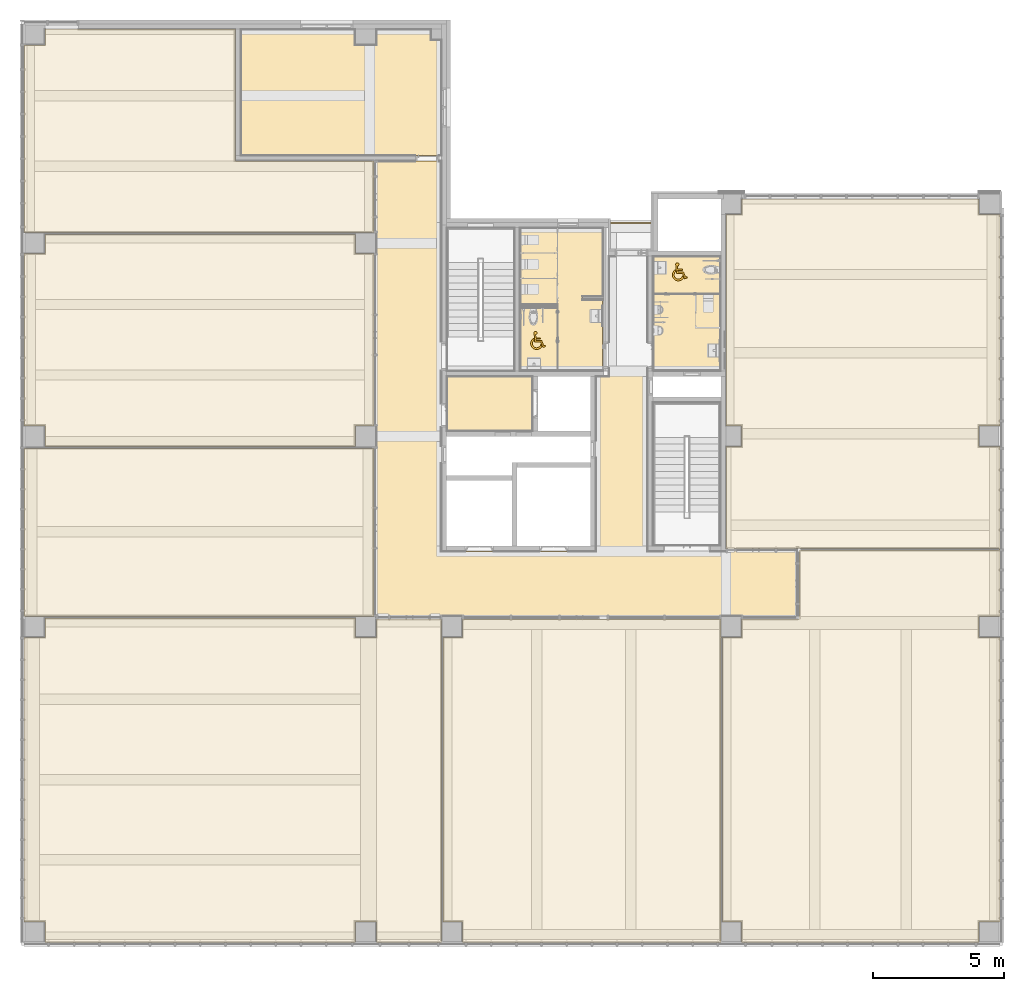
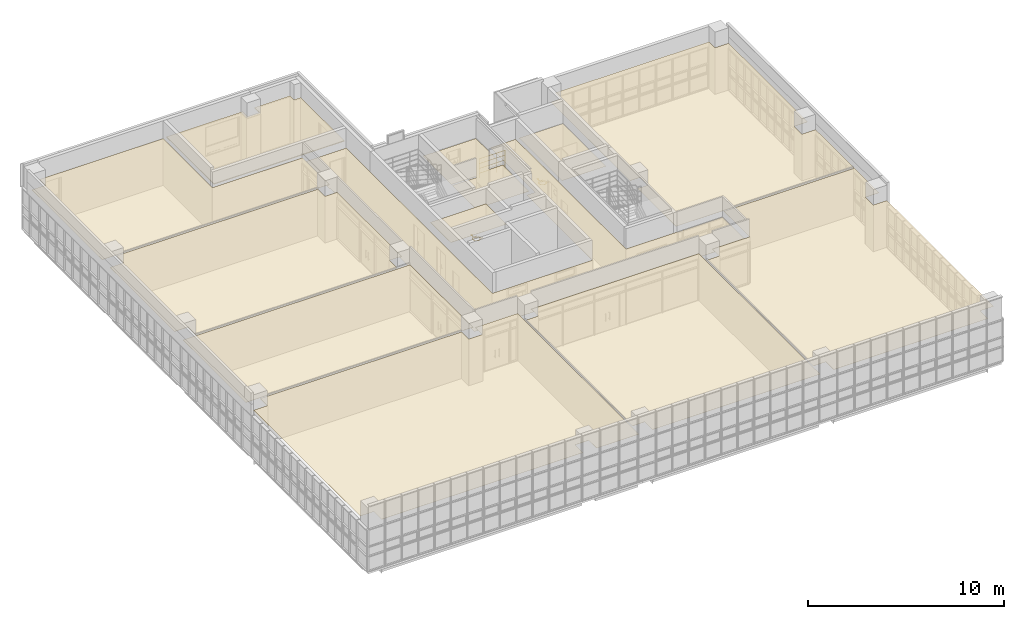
# One storey, part 68 of 76: 6 coverings, 2 doors, 1 railing.
"""IFC2X3 building model written with IfcOpenShell, lengths in millimetres."""

from ifc_helpers import new_model, entity, si_unit, converted_unit, derived_unit, direction, frame, frame_2d, origin, origin_2d_with_axis, place, context, subcontext, project, spatial, polyline, circle_curve, parameter, trimmed, segment, composite_curve, rectangle, circle, outline, extrude, source, transform, mapped, material, material_list, layer, layer_set, layer_usage, type_object, type_shapes, element, save


model = new_model("IFC2X3")

# Units and contexts
model_context = context("Model", 3, precision=0.01, world=origin(), true_north=direction((6.123031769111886e-17, 1.0)))
body_context = subcontext(model_context, "Body", "Model", "MODEL_VIEW")
ifc_project = project(units=[si_unit("LENGTHUNIT", "METRE", prefix="MILLI"), si_unit("AREAUNIT", "SQUARE_METRE"), si_unit("VOLUMEUNIT", "CUBIC_METRE"), converted_unit("PLANEANGLEUNIT", "DEGREE", entity("IfcRatioMeasure", 0.017453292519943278), si_unit("PLANEANGLEUNIT", "RADIAN"), dimensions=[0, 0, 0, 0, 0, 0, 0]), si_unit("MASSUNIT", "GRAM", prefix="KILO"), derived_unit("MASSDENSITYUNIT", [(si_unit("MASSUNIT", "GRAM", prefix="KILO"), 1), (si_unit("LENGTHUNIT", "METRE"), -3)]), derived_unit("MOMENTOFINERTIAUNIT", [(si_unit("LENGTHUNIT", "METRE"), 4)]), si_unit("TIMEUNIT", "SECOND"), si_unit("FREQUENCYUNIT", "HERTZ"), si_unit("THERMODYNAMICTEMPERATUREUNIT", "DEGREE_CELSIUS"), derived_unit("THERMALTRANSMITTANCEUNIT", [(si_unit("MASSUNIT", "GRAM", prefix="KILO"), 1), (si_unit("THERMODYNAMICTEMPERATUREUNIT", "KELVIN"), -1), (si_unit("TIMEUNIT", "SECOND"), -3)]), derived_unit("VOLUMETRICFLOWRATEUNIT", [(si_unit("LENGTHUNIT", "METRE"), 3), (si_unit("TIMEUNIT", "SECOND"), -1)]), derived_unit("MASSFLOWRATEUNIT", [(si_unit("MASSUNIT", "GRAM", prefix="KILO"), 1), (si_unit("TIMEUNIT", "SECOND"), -1)]), derived_unit("ROTATIONALFREQUENCYUNIT", [(si_unit("TIMEUNIT", "SECOND"), -1)]), si_unit("ELECTRICCURRENTUNIT", "AMPERE"), si_unit("ELECTRICVOLTAGEUNIT", "VOLT"), si_unit("POWERUNIT", "WATT"), si_unit("FORCEUNIT", "NEWTON", prefix="KILO"), si_unit("ILLUMINANCEUNIT", "LUX"), si_unit("LUMINOUSFLUXUNIT", "LUMEN"), si_unit("LUMINOUSINTENSITYUNIT", "CANDELA"), derived_unit("USERDEFINED", [(si_unit("MASSUNIT", "GRAM", prefix="KILO"), -1), (si_unit("LENGTHUNIT", "METRE"), -2), (si_unit("TIMEUNIT", "SECOND"), 3), (si_unit("LUMINOUSFLUXUNIT", "LUMEN"), 1)]), derived_unit("SOUNDPOWERUNIT", [(si_unit("MASSUNIT", "GRAM", prefix="KILO"), 1), (si_unit("LENGTHUNIT", "METRE"), 2), (si_unit("TIMEUNIT", "SECOND"), -3)]), derived_unit("SOUNDPRESSUREUNIT", [(si_unit("MASSUNIT", "GRAM", prefix="KILO"), 1), (si_unit("LENGTHUNIT", "METRE"), -1), (si_unit("TIMEUNIT", "SECOND"), -2)]), derived_unit("LINEARVELOCITYUNIT", [(si_unit("LENGTHUNIT", "METRE"), 1), (si_unit("TIMEUNIT", "SECOND"), -1)]), si_unit("PRESSUREUNIT", "PASCAL"), derived_unit("USERDEFINED", [(si_unit("LENGTHUNIT", "METRE"), -2), (si_unit("MASSUNIT", "GRAM", prefix="KILO"), 1), (si_unit("TIMEUNIT", "SECOND"), -2)]), derived_unit("LINEARFORCEUNIT", [(si_unit("MASSUNIT", "GRAM", prefix="KILO"), 1), (si_unit("LENGTHUNIT", "METRE"), 1), (si_unit("TIMEUNIT", "SECOND"), -2), (si_unit("LENGTHUNIT", "METRE"), -1)]), derived_unit("PLANARFORCEUNIT", [(si_unit("MASSUNIT", "GRAM", prefix="KILO"), 1), (si_unit("LENGTHUNIT", "METRE"), 1), (si_unit("TIMEUNIT", "SECOND"), -2), (si_unit("LENGTHUNIT", "METRE"), -2)])], contexts=[model_context])

# Site, building, storey
site_placement = place(None, frame((-14167.972527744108, -657.2125860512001, 0.0)))
site = spatial("IfcSite", under=ifc_project, at=site_placement, Name="Default", CompositionType="ELEMENT")
building_placement = place(site_placement, origin())
building = spatial("IfcBuilding", under=site, at=building_placement, Name="Sample Building", CompositionType="ELEMENT")
storey_placement = place(building_placement, frame((0.0, 0.0, 9300.0)))
storey = spatial("IfcBuildingStorey", under=building, at=storey_placement, Name="지상 3층", CompositionType="ELEMENT", Elevation=9300.000000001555)

# Doors
ifc_material_1 = material(Name="KBIMS-노면용 페인트_진하늘색")
ifc_material_list_1 = material_list([ifc_material_1, ifc_material_1])
door_style = type_object("IfcDoorStyle", Name="SE251-장애인전용 표시:SE251-장애인전용 표시", ConstructionType="NOTDEFINED", OperationType="NOTDEFINED", ParameterTakesPrecedence=False, Sizeable=False, material=ifc_material_list_1)
shared_shape = source(origin(), body_context, "Body", "SweptSolid", [
    extrude(outline(composite_curve([segment(trimmed(circle_curve(frame_2d((-36.68855283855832, -47.74251805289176), x_axis=(1.0, 0.0)), 229.68578343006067), [parameter(118.63343780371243)], [parameter(330.18087778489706)], True, "PARAMETER"), True, "CONTINUOUS"), segment(polyline([(162.58672770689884, -161.9568852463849), (125.13875807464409, -69.8626552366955)]), True, "CONTINUOUS"), segment(trimmed(circle_curve(frame_2d((-36.68855283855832, -47.74251805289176), x_axis=(1.0, 0.0)), 163.33211266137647), [parameter(129.67752554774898)], [parameter(352.21649007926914)], True, "PARAMETER"), False, "CONTINUOUS"), segment(polyline([(-140.97054841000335, 77.96605136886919), (-146.7549373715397, 153.85348911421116)]), True, "CONTINUOUS")], self_intersect=False)), frame((71.31807136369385, -37.57408412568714, 0.0)), (0.0, 0.0, 1.0), 1.5875),
    extrude(outline(composite_curve([segment(polyline([(-282.31222354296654, -186.97456283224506), (25.012127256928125, -186.974562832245)]), True, "CONTINUOUS"), segment(polyline([(25.012127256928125, -186.974562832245), (42.305091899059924, 39.89793596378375)]), True, "CONTINUOUS"), segment(polyline([(42.30509189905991, 39.89793596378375), (263.5159692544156, 110.7895168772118)]), True, "CONTINUOUS"), segment(polyline([(263.5159692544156, 110.7895168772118), (230.53394569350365, 215.81642815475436)]), True, "CONTINUOUS"), segment(polyline([(230.53394569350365, 215.81642815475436), (181.07321552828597, 202.95741624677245)]), True, "CONTINUOUS"), segment(polyline([(181.07321552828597, 202.95741624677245), (198.08692429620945, 148.77950087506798)]), True, "CONTINUOUS"), segment(polyline([(198.08692429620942, 148.77950087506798), (-10.806586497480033, 81.83527372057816)]), True, "CONTINUOUS"), segment(polyline([(-10.806586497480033, 81.83527372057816), (-27.016565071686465, -130.829149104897)]), True, "CONTINUOUS"), segment(polyline([(-27.01656507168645, -130.829149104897), (-74.51295100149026, -130.82914910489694)]), True, "CONTINUOUS"), segment(polyline([(-74.51295100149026, -130.82914910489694), (-60.984513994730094, 46.65518467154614)]), True, "CONTINUOUS"), segment(polyline([(-60.984513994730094, 46.65518467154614), (-111.87816757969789, 50.53446557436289)]), True, "CONTINUOUS"), segment(polyline([(-111.87816757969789, 50.53446557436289), (-125.70229607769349, -130.82914910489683)]), True, "CONTINUOUS"), segment(polyline([(-125.70229607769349, -130.82914910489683), (-247.3139701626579, -130.8291491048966)]), True, "CONTINUOUS"), segment(trimmed(circle_curve(frame_2d((-311.1107235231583, -130.04222235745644), x_axis=(0.07600280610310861, 0.9971076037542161)), 63.80160650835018), [parameter(273.6521413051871)], [parameter(211.19083029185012)], True, "PARAMETER"), True, "CONTINUOUS")], self_intersect=False)), frame((145.3871253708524, 15.097937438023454, 0.0), z_axis=(0.0, 0.0, 1.0), x_axis=(0.07600280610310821, -0.9971076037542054, 0.0)), (0.0, 0.0, 1.0), 1.5875),
])
type_shapes(door_style, [shared_shape])
for number, where, name in (
    (1, (33677.963692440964, 23597.21230348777, 0.0), "SE251-장애인전용 표시:SE251-장애인전용 표시"),
    (2, (39107.972527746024, 26227.212300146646, 0.0), "SE251-장애인전용 표시:SE251-장애인전용 표시"),
):
    element("IfcDoor", number, at=place(storey_placement, frame(where)), inside=storey, type_object=door_style, material=ifc_material_1, Name=name, ObjectType="SE251-장애인전용 표시:SE251-장애인전용 표시", OverallHeight=1.5875, OverallWidth=572.3706125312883, context=body_context, shape_type="MappedRepresentation", body=[
        mapped(shared_shape, transform((0.0, 0.0, 0.0), scale=1.0)),
    ])

# Covering
ifc_material_2 = material(Name="CE782-경량철골천장틀(M-Bar) 천장")
ifc_layer_1 = layer(ifc_material_2, 1.0)
ifc_material_3 = material(Name="CE742-무석면텍스 천장 (시멘트계천장재) (6mm)")
ifc_layer_2 = layer(ifc_material_3, 6.0)
ifc_layer_set_1 = layer_set([ifc_layer_1, ifc_layer_2], Name="복합 천장:A1-44-11A-경량철골천장틀(M-Bar), 무석면텍스 (7mm)")
ifc_layer_usage_1 = layer_usage(ifc_layer_set_1, "AXIS3", "POSITIVE", 0.0)
covering_type_1 = type_object("IfcCoveringType", Name="복합 천장:A1-44-11A-경량철골천장틀(M-Bar), 무석면텍스 (7mm)", PredefinedType="CEILING")
covering_1_placement = place(storey_placement, origin())
element("IfcCovering", 3, at=covering_1_placement, inside=storey, type_object=covering_type_1, material=ifc_layer_usage_1, Name="복합 천장:A1-44-11A-경량철골천장틀(M-Bar), 무석면텍스 (7mm)", ObjectType="복합 천장:A1-44-11A-경량철골천장틀(M-Bar), 무석면텍스 (7mm)", PredefinedType="CEILING", context=body_context, shape_type="SweptSolid", body=[
    extrude(outline(polyline([(-12295.998297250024, -13175.097618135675), (-2395.99826981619, -13175.097618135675), (-2396.01561917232, -1493.097392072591), (-2333.5156191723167, -1493.0973920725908), (-2333.515619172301, -12375.097813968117), (-1595.998269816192, -12375.097813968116), (-1595.9982698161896, -13175.097618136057), (7504.010426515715, -13175.09761813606), (7504.010426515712, -12375.097392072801), (8303.99306798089, -12375.0973920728), (8303.993067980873, -1475.0969701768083), (7504.010426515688, -1475.0969701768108), (7504.010426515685, -675.0969701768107), (8304.001809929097, -675.0969701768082), (8304.00180992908, 5824.902607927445), (7504.010453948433, 5824.902607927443), (7504.010453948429, 6624.902607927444), (8304.001730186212, 6624.902607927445), (8304.001730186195, 14724.902695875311), (7504.010453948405, 14724.90269587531), (7504.010453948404, 15324.902595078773), (-1595.99826981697, 15324.902595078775), (-1595.998269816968, 14724.902607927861), (-2196.0069628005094, 14724.90260792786), (-2196.006962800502, 6624.902607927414), (-1595.9982895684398, 6624.902607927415), (-1595.9982895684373, 5824.902607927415), (-2196.006962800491, 5824.902607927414), (-2196.0069628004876, 1924.867977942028), (599.0017301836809, 1924.867977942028), (599.0017301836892, -765.1148216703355), (-1595.9982698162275, -765.1148216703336), (-1595.9982698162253, -1475.097392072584), (-2395.9982698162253, -1475.0973920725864), (-2395.9982698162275, -765.0971140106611), (-12295.998297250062, -765.0971140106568), (-12295.99829725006, -1475.0973920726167), (-13033.51564660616, -1475.0973920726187), (-13033.515646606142, -12375.097813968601), (-12295.998297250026, -12375.097813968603), (-12295.998297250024, -13175.097618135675)]), holes=[polyline([(603.9930679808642, 1862.3679243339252), (603.993067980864, 1924.8679243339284), (8253.993067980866, 1924.8679243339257), (8253.993067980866, 1862.3679243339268), (603.9930679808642, 1862.3679243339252)])]), frame((43163.97076094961, 13732.30970006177, 2980.0)), (0.0, 0.0, 1.0), 7.000000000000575),
    extrude(outline(polyline([(-3310.4165688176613, -6734.997023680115), (3289.5834311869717, -6734.997023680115), (3289.5834311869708, -5934.997140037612), (4089.5831221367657, -5934.997140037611), (4089.5831221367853, 5965.0028965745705), (3289.583431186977, 5965.00289657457), (3289.583431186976, 6674.985510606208), (-3310.416568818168, 6674.9855106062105), (-3310.416568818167, 5965.002896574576), (-4047.9168468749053, 5965.002896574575), (-4047.916846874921, -5934.997140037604), (-3310.416568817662, -5934.9971400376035), (-3310.4165688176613, -6734.997023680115)])), frame((20802.96959455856, 23646.795739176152, 2980.0), z_axis=(0.0, 0.0, 1.0), x_axis=(0.0, -1.0, 0.0)), (0.0, 0.0, 1.0), 7.000000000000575),
    extrude(outline(polyline([(-3527.7777847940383, 5057.773960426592), (-3527.777784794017, -2242.226076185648), (1322.222235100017, -2242.2260761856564), (1522.2222351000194, -2242.2260761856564), (1522.222235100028, -7552.20869021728), (4272.222202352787, -7552.20869021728), (4272.222202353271, 5857.773844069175), (-2927.777770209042, 5857.773844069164), (-2927.777770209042, 5057.773960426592), (-3527.7777847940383, 5057.773960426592)])), frame((19925.74641494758, 32029.434510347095, 2980.0), z_axis=(0.0, 0.0, -1.0), x_axis=(0.0, -1.0, 0.0)), (0.0, 0.0, -1.0), 7.000000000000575),
    extrude(rectangle(XDim=6437.500309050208, YDim=13409.982534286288, at=frame_2d((-9.777068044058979e-12, 9.094947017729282e-13), x_axis=(1.0, 0.0))), frame((20772.963838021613, 16275.962462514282, 2980.0), z_axis=(0.0, 0.0, 1.0), x_axis=(0.0, -1.0, 0.0)), (0.0, 0.0, 1.0), 7.000000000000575),
    extrude(outline(polyline([(-5469.066934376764, -8749.999917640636), (5430.9334875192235, -8749.999917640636), (5430.933487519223, -7950.000033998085), (6230.933178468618, -7950.000033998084), (6230.933178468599, 3950.0), (5430.933487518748, 3950.0), (5430.933487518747, 4750.0), (6230.933178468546, 4750.0), (6230.933178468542, 7249.999975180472), (-6179.06721243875, 7249.999975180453), (-6179.067212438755, 4750.0), (-5469.066934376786, 4750.0), (-5469.066934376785, 3950.0), (-6206.532250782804, 3950.0), (-6206.53225078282, -7950.000033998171), (-5469.066934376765, -7950.00003399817), (-5469.066934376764, -8749.999917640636)])), frame((22817.972488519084, 6788.145373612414, 2980.0), z_axis=(0.0, 0.0, 1.0), x_axis=(0.0, -1.0, 0.0)), (0.0, 0.0, 1.0), 7.000000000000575),
])

# Space
space_1_placement = place(storey_placement, origin())
space_1 = spatial("IfcSpace", under=storey, at=space_1_placement, Name="204", CompositionType="ELEMENT", InteriorOrExteriorSpace="INTERNAL")

# Covering
ifc_layer_usage_2 = layer_usage(ifc_layer_set_1, "AXIS3", "POSITIVE", 0.0)
covering_type_2 = type_object("IfcCoveringType", Name="복합 천장:A1-44-11A-경량철골천장틀(M-Bar), 무석면텍스 (7mm)", PredefinedType="CEILING")
covering_2_placement = place(space_1_placement, origin())
element("IfcCovering", 4, at=covering_2_placement, inside=space_1, type_object=covering_type_2, material=ifc_layer_usage_2, Name="복합 천장:A1-44-11A-경량철골천장틀(M-Bar), 무석면텍스 (7mm)", ObjectType="복합 천장:A1-44-11A-경량철골천장틀(M-Bar), 무석면텍스 (7mm)", PredefinedType="CEILING", context=body_context, shape_type="SweptSolid", body=[
    extrude(outline(polyline([(3476.195888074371, -10401.897758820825), (6026.18715847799, -10401.897758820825), (6026.187158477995, -7651.897791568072), (5976.187158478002, -7651.897791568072), (5976.187158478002, -6851.897791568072), (5976.18715847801, -251.89779156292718), (5976.18715847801, 548.1368920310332), (5976.187158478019, 7048.102208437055), (3476.187185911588, 7048.102208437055), (2676.187185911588, 7048.102208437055), (-7223.795455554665, 7048.102208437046), (-8023.812841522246, 7048.102208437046), (-10123.812841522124, 7048.1022084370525), (-10123.812841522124, 4543.10227489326), (-4423.80414853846, 4543.10227489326), (-4423.80414853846, -6751.8977787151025), (-2923.804148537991, -6751.8977787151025), (-2923.804148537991, -2151.8977949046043), (-2423.812841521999, -2151.8977949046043), (-2423.812841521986, 4548.011569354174), (3476.195888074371, 4548.011569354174), (3476.195888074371, -10401.897758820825)])), frame((33544.15964961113, 20105.31451642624, 2680.0), z_axis=(0.0, 0.0, 1.0), x_axis=(-1.0, 0.0, 0.0)), (0.0, 0.0, 1.0), 7.000000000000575),
])

# Space
space_2_placement = place(storey_placement, origin())
space_2 = spatial("IfcSpace", under=storey, at=space_2_placement, Name="201", CompositionType="ELEMENT", InteriorOrExteriorSpace="INTERNAL")

# Covering
ifc_layer_usage_3 = layer_usage(ifc_layer_set_1, "AXIS3", "POSITIVE", 0.0)
covering_type_3 = type_object("IfcCoveringType", Name="복합 천장:A1-44-11A-경량철골천장틀(M-Bar), 무석면텍스 (7mm)", PredefinedType="CEILING")
covering_3_placement = place(space_2_placement, origin())
element("IfcCovering", 5, at=covering_3_placement, inside=space_2, type_object=covering_type_3, material=ifc_layer_usage_3, Name="복합 천장:A1-44-11A-경량철골천장틀(M-Bar), 무석면텍스 (7mm)", ObjectType="복합 천장:A1-44-11A-경량철골천장틀(M-Bar), 무석면텍스 (7mm)", PredefinedType="CEILING", context=body_context, shape_type="SweptSolid", body=[
    extrude(rectangle(XDim=2100.000003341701, YDim=3300.0087295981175, at=frame_2d((0.0, 2.1600499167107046e-12), x_axis=(1.0, 0.0))), frame((31917.96812633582, 21207.212309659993, 2980.0), z_axis=(0.0, 0.0, 1.0), x_axis=(0.0, -1.0, 0.0)), (0.0, 0.0, 1.0), 7.000000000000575),
])

# Space
space_3_placement = place(storey_placement, origin())
space_3 = spatial("IfcSpace", under=storey, at=space_3_placement, Name="8", CompositionType="ELEMENT", InteriorOrExteriorSpace="INTERNAL")

# Coverings
ifc_material_4 = material(Name="CE554-콘크리트면정리 천장")
ifc_layer_3 = layer(ifc_material_4, 1.0)
ifc_material_5 = material(Name="CE751-유리면 흡음판 천장 (48k, 그라스크로스, 50mm)")
ifc_layer_4 = layer(ifc_material_5, 49.0)
ifc_layer_set_2 = layer_set([ifc_layer_3, ifc_layer_4], Name="복합 천장:A1-46-01B-콘크리트면정리, 유리면 흡음판(그라스크로스) (50mm)")
ifc_layer_usage_4 = layer_usage(ifc_layer_set_2, "AXIS3", "POSITIVE", 0.0)
covering_type_4 = type_object("IfcCoveringType", Name="복합 천장:A1-46-01B-콘크리트면정리, 유리면 흡음판(그라스크로스) (50mm)", PredefinedType="CEILING")
covering_4_placement = place(space_3_placement, origin())
element("IfcCovering", 6, at=covering_4_placement, inside=space_3, type_object=covering_type_4, material=ifc_layer_usage_4, Name="복합 천장:A1-46-01B-콘크리트면정리, 유리면 흡음판(그라스크로스) (50mm)", ObjectType="복합 천장:A1-46-01B-콘크리트면정리, 유리면 흡음판(그라스크로스) (50mm)", PredefinedType="CEILING", context=body_context, shape_type="SweptSolid", body=[
    extrude(outline(polyline([(439.99650816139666, -1150.0000043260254), (4939.996508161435, -1150.0000043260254), (4939.996508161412, 3700.0000155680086), (-2759.994762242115, 3700.0000155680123), (-2759.994762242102, -750.00001717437), (-2359.994762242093, -750.0000171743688), (-2359.9947622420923, -1150.0000043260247), (-260.0034918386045, -1150.0000043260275), (-260.0034918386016, -649.9999897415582), (439.99650816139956, -649.9999897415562), (439.99650816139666, -1150.0000043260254)])), frame((27307.96899929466, 34407.21229081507, 2980.0), z_axis=(0.0, 0.0, 1.0), x_axis=(-1.0, 0.0, 0.0)), (0.0, 0.0, 1.0), 49.99999999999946),
])
ifc_layer_5 = layer(ifc_material_2, 1.0)
ifc_material_6 = material(Name="CE761-열경화성수지 천장 (300x300x1.2mm)")
ifc_layer_6 = layer(ifc_material_6, 1.0)
ifc_layer_set_3 = layer_set([ifc_layer_5, ifc_layer_6], Name="복합 천장:A1-45-06A-경량철골천장틀(M-Bar), 열경화성수지(300x300x1.2mm) (2mm) TYPE-D")
ifc_layer_usage_5 = layer_usage(ifc_layer_set_3, "AXIS3", "POSITIVE", 0.0)
covering_type_5 = type_object("IfcCoveringType", Name="복합 천장:A1-45-06A-경량철골천장틀(M-Bar), 열경화성수지(300x300x1.2mm) (2mm) TYPE-D", PredefinedType="CEILING")
covering_5_placement = place(storey_placement, origin())
element("IfcCovering", 7, at=covering_5_placement, inside=storey, type_object=covering_type_5, material=ifc_layer_usage_5, Name="복합 천장:A1-45-06A-경량철골천장틀(M-Bar), 열경화성수지(300x300x1.2mm) (2mm) TYPE-D", ObjectType="복합 천장:A1-45-06A-경량철골천장틀(M-Bar), 열경화성수지(300x300x1.2mm) (2mm) TYPE-D", PredefinedType="CEILING", context=body_context, shape_type="SweptSolid", body=[
    extrude(outline(polyline([(-1462.494197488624, -2793.4894692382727), (1677.4883734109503, -2793.4894692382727), (1677.4883734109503, 146.97894098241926), (262.5058456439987, 146.97894098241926), (262.5058456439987, 236.97894098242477), (1677.4883734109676, 236.97894098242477), (1677.4883734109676, 2646.510527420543), (-1462.494197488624, 2646.510527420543), (-1462.494197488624, -73.48947090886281), (-692.4941974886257, -73.48947090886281), (-692.4941974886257, -163.48946923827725), (-1462.494197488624, -163.48946923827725), (-1462.494197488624, -2793.4894692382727)])), frame((34775.46960066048, 25133.72283875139, 2690.0), z_axis=(0.0, 0.0, 1.0), x_axis=(-1.0, 0.0, 0.0)), (0.0, 0.0, 1.0), 1.9999999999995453),
])
ifc_layer_usage_6 = layer_usage(ifc_layer_set_3, "AXIS3", "POSITIVE", 0.0)
covering_type_6 = type_object("IfcCoveringType", Name="복합 천장:A1-45-06A-경량철골천장틀(M-Bar), 열경화성수지(300x300x1.2mm) (2mm) TYPE-D", PredefinedType="CEILING")
covering_6_placement = place(storey_placement, origin())
element("IfcCovering", 8, at=covering_6_placement, inside=storey, type_object=covering_type_6, material=ifc_layer_usage_6, Name="복합 천장:A1-45-06A-경량철골천장틀(M-Bar), 열경화성수지(300x300x1.2mm) (2mm) TYPE-D", ObjectType="복합 천장:A1-45-06A-경량철골천장틀(M-Bar), 열경화성수지(300x300x1.2mm) (2mm) TYPE-D", PredefinedType="CEILING", context=body_context, shape_type="SweptSolid", body=[
    extrude(rectangle(XDim=2600.0000000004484, YDim=4399.999996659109, at=origin_2d_with_axis()), frame((39467.963798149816, 24657.212296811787, 2690.0), z_axis=(0.0, 0.0, 1.0), x_axis=(-1.0, 0.0, 0.0)), (0.0, 0.0, 1.0), 1.9999999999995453),
])

# Railing
ifc_material_7 = material(Name="KBIMS-난간")
ifc_material_8 = material(Name="KBIMS-금속재")
ifc_material_list_2 = material_list([ifc_material_7, ifc_material_7, ifc_material_7, ifc_material_8, ifc_material_8, ifc_material_8, ifc_material_8])
railing_placement = place(storey_placement, origin())
element("IfcRailing", 9, at=railing_placement, inside=storey, material=ifc_material_list_2, Name="난간:RL780-금속재 난간", ObjectType="난간:RL780-금속재 난간", PredefinedType="NOTDEFINED", context=body_context, shape_type="SweptSolid", body=[
    extrude(rectangle(XDim=24.99999999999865, YDim=24.99999999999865, at=origin_2d_with_axis()), frame((37547.963798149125, 28132.21230798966, 0.0)), (0.0, 0.0, 1.0), 1164.9999999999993),
    extrude(rectangle(XDim=24.99999999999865, YDim=24.99999999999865, at=frame_2d((-4.331646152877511e-12, 0.0), x_axis=(1.0, 0.0))), frame((38075.47249112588, 28132.21230798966, 0.0)), (0.0, 0.0, 1.0), 1164.9999999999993),
    extrude(rectangle(XDim=24.99999999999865, YDim=24.99999999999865, at=origin_2d_with_axis()), frame((36547.963798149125, 28132.212307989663, 0.0)), (0.0, 0.0, 1.0), 1164.9999999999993),
    extrude(circle(Radius=17.5, at=origin_2d_with_axis()), frame((36547.963798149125, 28132.212307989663, 1182.4999999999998), z_axis=(1.0, 0.0, 0.0), x_axis=(0.0, -1.0, 0.0)), (0.0, 0.0, 1.0), 1540.008692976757),
    extrude(circle(Radius=17.5, at=origin_2d_with_axis()), frame((36547.963798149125, 28132.212307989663, 882.4999999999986), z_axis=(1.0, 0.0, 0.0), x_axis=(0.0, -1.0, 0.0)), (0.0, 0.0, 1.0), 1540.008692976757),
    extrude(circle(Radius=17.5, at=origin_2d_with_axis()), frame((36547.963798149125, 28132.212307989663, 582.4999999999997), z_axis=(1.0, 0.0, 0.0), x_axis=(0.0, -1.0, 0.0)), (0.0, 0.0, 1.0), 1540.008692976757),
    extrude(circle(Radius=17.5, at=origin_2d_with_axis()), frame((36547.963798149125, 28132.212307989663, 282.49999999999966), z_axis=(1.0, 0.0, 0.0), x_axis=(0.0, -1.0, 0.0)), (0.0, 0.0, 1.0), 1540.008692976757),
])

save(model, "model.ifc")
